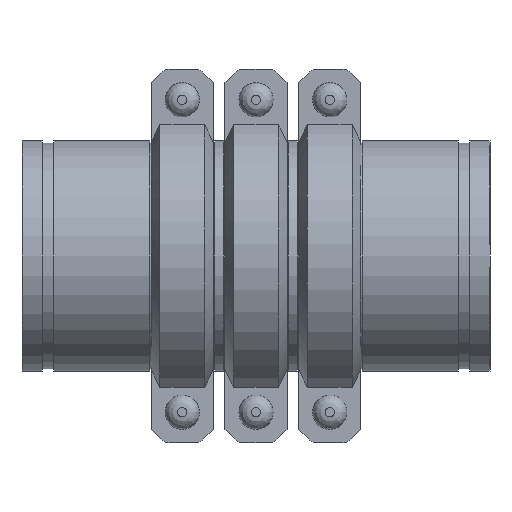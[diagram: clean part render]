
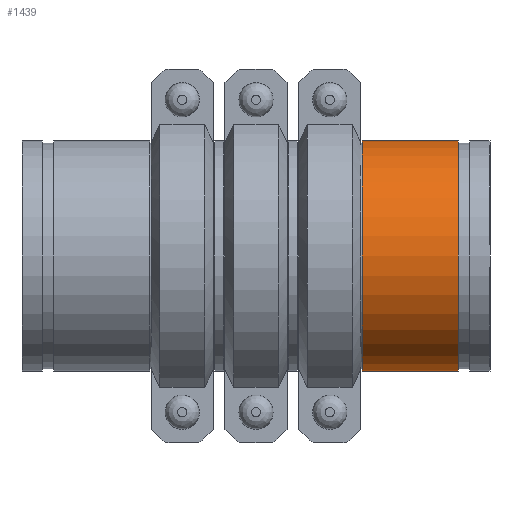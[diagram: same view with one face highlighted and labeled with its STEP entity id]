
A CAD part, front view. The second image highlights one B-rep face of the part: STEP entity #1439.
In plain terms, the highlighted cylindrical face has radius 109.537 mm (diameter 219.075 mm), a full revolution.
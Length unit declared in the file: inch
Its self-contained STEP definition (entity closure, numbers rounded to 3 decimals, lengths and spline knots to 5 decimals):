
#67=LINE('',#2318,#160);
#160=VECTOR('',#1871,4.3125);
#253=CYLINDRICAL_SURFACE('',#1655,4.3125);
#310=FACE_OUTER_BOUND('',#395,.T.);
#395=EDGE_LOOP('',(#948,#949,#950,#951,#952,#953));
#505=CIRCLE('',#1653,4.3125);
#506=CIRCLE('',#1654,4.3125);
#507=CIRCLE('',#1656,4.3125);
#508=CIRCLE('',#1657,4.3125);
#597=VERTEX_POINT('',#2309);
#598=VERTEX_POINT('',#2310);
#599=VERTEX_POINT('',#2314);
#600=VERTEX_POINT('',#2315);
#738=EDGE_CURVE('',#597,#598,#505,.T.);
#739=EDGE_CURVE('',#598,#597,#506,.T.);
#740=EDGE_CURVE('',#599,#600,#507,.T.);
#741=EDGE_CURVE('',#600,#599,#508,.T.);
#742=EDGE_CURVE('',#600,#598,#67,.T.);
#948=ORIENTED_EDGE('',*,*,#740,.F.);
#949=ORIENTED_EDGE('',*,*,#741,.F.);
#950=ORIENTED_EDGE('',*,*,#742,.T.);
#951=ORIENTED_EDGE('',*,*,#739,.T.);
#952=ORIENTED_EDGE('',*,*,#738,.T.);
#953=ORIENTED_EDGE('',*,*,#742,.F.);
#1439=ADVANCED_FACE('',(#310),#253,.T.);
#1653=AXIS2_PLACEMENT_3D('',#2311,#1861,#1862);
#1654=AXIS2_PLACEMENT_3D('',#2312,#1863,#1864);
#1655=AXIS2_PLACEMENT_3D('',#2313,#1865,#1866);
#1656=AXIS2_PLACEMENT_3D('',#2316,#1867,#1868);
#1657=AXIS2_PLACEMENT_3D('',#2317,#1869,#1870);
#1861=DIRECTION('center_axis',(-1.,0.,0.));
#1862=DIRECTION('ref_axis',(0.,0.,1.));
#1863=DIRECTION('center_axis',(-1.,0.,0.));
#1864=DIRECTION('ref_axis',(0.,0.,1.));
#1865=DIRECTION('center_axis',(-1.,0.,0.));
#1866=DIRECTION('ref_axis',(0.,1.,0.));
#1867=DIRECTION('center_axis',(-1.,0.,0.));
#1868=DIRECTION('ref_axis',(0.,0.,1.));
#1869=DIRECTION('center_axis',(-1.,0.,0.));
#1870=DIRECTION('ref_axis',(0.,0.,1.));
#1871=DIRECTION('',(1.,0.,0.));
#2309=CARTESIAN_POINT('',(1.797,4.3125,0.));
#2310=CARTESIAN_POINT('',(1.797,-4.3125,0.));
#2311=CARTESIAN_POINT('Origin',(1.797,0.,0.));
#2312=CARTESIAN_POINT('Origin',(1.797,0.,0.));
#2313=CARTESIAN_POINT('Origin',(0.,0.,
0.));
#2314=CARTESIAN_POINT('',(-1.797,4.3125,0.));
#2315=CARTESIAN_POINT('',(-1.797,-4.3125,0.));
#2316=CARTESIAN_POINT('Origin',(-1.797,0.,0.));
#2317=CARTESIAN_POINT('Origin',(-1.797,0.,0.));
#2318=CARTESIAN_POINT('',(0.,-4.3125,0.));
